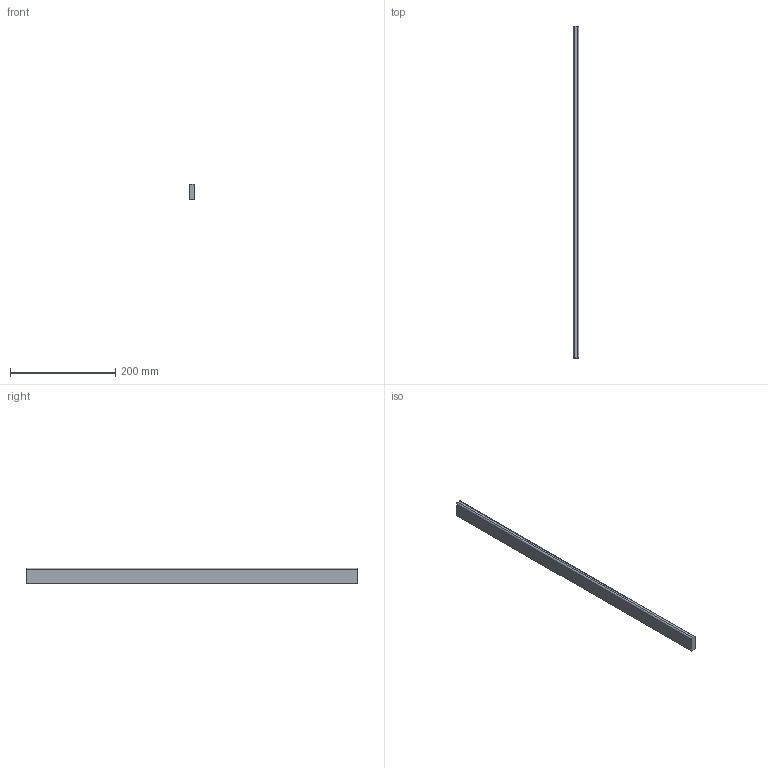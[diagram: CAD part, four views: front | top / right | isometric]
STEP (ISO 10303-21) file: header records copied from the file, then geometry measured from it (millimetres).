
FILE_DESCRIPTION (( 'STEP AP214' ), '1' );
FILE_NAME ('_Seitenreling_SP60701200_RL630.step', '2010-09-06T14:51:42', ( 'grass' ), ( '' ), 'SwSTEP 2.0', 'SolidWorks 2010', '' );
FILE_SCHEMA (( 'AUTOMOTIVE_DESIGN' ));
Length unit declared in the file: millimetre
Products named in the file (1): _Seitenreling_SP60701200_RL630
Bounding box: 10.5 x 630 x 30 mm (x, y, z)
Volume: 196016.4 mm3; surface area: 50029.9 mm2
Topology: 1 solids, 1 shells, 8 faces, 18 edges, 12 vertices
Faces by surface type: plane 6, cylinder 2
Entity records: 260 total; most frequent: DIRECTION 40, CARTESIAN_POINT 39, ORIENTED_EDGE 36, EDGE_CURVE 18, VECTOR 14, LINE 14, AXIS2_PLACEMENT_3D 13, VERTEX_POINT 12
